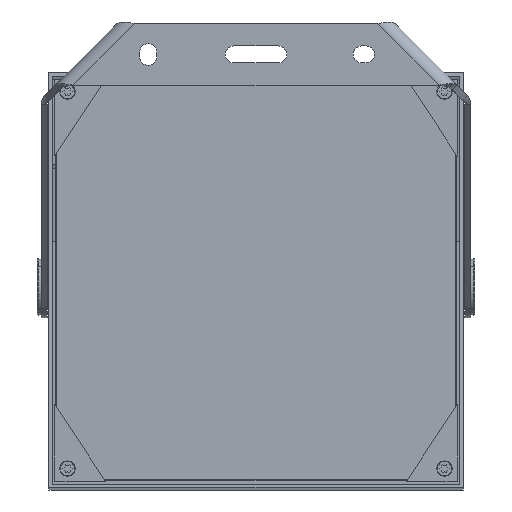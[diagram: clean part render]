
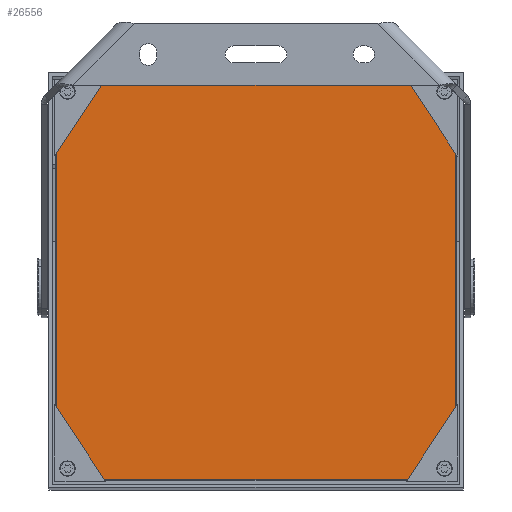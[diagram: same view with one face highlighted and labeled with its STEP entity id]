
A CAD part, front view. The second image highlights one B-rep face of the part: STEP entity #26556.
In plain terms, the highlighted planar face has unit normal (0, -1, 0).
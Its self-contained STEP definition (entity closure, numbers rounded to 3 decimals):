
#25973=DIRECTION('',(0.,0.,1.));
#25974=VECTOR('',#25973,205.404);
#25975=CARTESIAN_POINT('',(129.405,2.,-102.702));
#25976=LINE('',#25975,#25974);
#25977=DIRECTION('',(-0.707,0.,-0.707));
#25978=VECTOR('',#25977,37.77);
#25979=CARTESIAN_POINT('',(129.405,2.,-102.702));
#25980=LINE('',#25979,#25978);
#25981=DIRECTION('',(1.,0.,0.));
#25982=VECTOR('',#25981,205.397);
#25983=CARTESIAN_POINT('',(-102.698,2.,-129.409));
#25984=LINE('',#25983,#25982);
#25985=DIRECTION('',(-0.707,0.,0.707));
#25986=VECTOR('',#25985,37.77);
#25987=CARTESIAN_POINT('',(-102.698,2.,-129.409));
#25988=LINE('',#25987,#25986);
#25989=DIRECTION('',(0.,0.,-1.));
#25990=VECTOR('',#25989,205.404);
#25991=CARTESIAN_POINT('',(-129.405,2.,102.702));
#25992=LINE('',#25991,#25990);
#25993=DIRECTION('',(0.707,0.,0.707));
#25994=VECTOR('',#25993,37.77);
#25995=CARTESIAN_POINT('',(-129.405,2.,102.702));
#25996=LINE('',#25995,#25994);
#25997=DIRECTION('',(-1.,0.,0.));
#25998=VECTOR('',#25997,205.397);
#25999=CARTESIAN_POINT('',(102.698,2.,129.409));
#26000=LINE('',#25999,#25998);
#26001=DIRECTION('',(0.707,0.,-0.707));
#26002=VECTOR('',#26001,37.77);
#26003=CARTESIAN_POINT('',(102.698,2.,129.409));
#26004=LINE('',#26003,#26002);
#26433=CARTESIAN_POINT('',(129.405,2.,-102.702));
#26434=CARTESIAN_POINT('',(129.405,2.,102.702));
#26435=VERTEX_POINT('',#26433);
#26436=VERTEX_POINT('',#26434);
#26437=CARTESIAN_POINT('',(102.698,2.,-129.409));
#26438=VERTEX_POINT('',#26437);
#26451=CARTESIAN_POINT('',(-102.698,2.,-129.409));
#26452=VERTEX_POINT('',#26451);
#26457=CARTESIAN_POINT('',(-129.405,2.,-102.702));
#26458=VERTEX_POINT('',#26457);
#26467=CARTESIAN_POINT('',(-129.405,2.,102.702));
#26468=VERTEX_POINT('',#26467);
#26479=CARTESIAN_POINT('',(-102.698,2.,129.409));
#26480=VERTEX_POINT('',#26479);
#26499=CARTESIAN_POINT('',(102.698,2.,129.409));
#26500=VERTEX_POINT('',#26499);
#26533=CARTESIAN_POINT('',(0.,2.,0.));
#26534=DIRECTION('',(0.,-1.,0.));
#26535=DIRECTION('',(-1.,0.,0.));
#26536=AXIS2_PLACEMENT_3D('',#26533,#26534,#26535);
#26537=PLANE('',#26536);
#26539=ORIENTED_EDGE('',*,*,#26538,.F.);
#26541=ORIENTED_EDGE('',*,*,#26540,.T.);
#26543=ORIENTED_EDGE('',*,*,#26542,.F.);
#26545=ORIENTED_EDGE('',*,*,#26544,.T.);
#26547=ORIENTED_EDGE('',*,*,#26546,.F.);
#26549=ORIENTED_EDGE('',*,*,#26548,.T.);
#26551=ORIENTED_EDGE('',*,*,#26550,.F.);
#26553=ORIENTED_EDGE('',*,*,#26552,.T.);
#26554=EDGE_LOOP('',(#26539,#26541,#26543,#26545,#26547,#26549,#26551,#26553));
#26555=FACE_OUTER_BOUND('',#26554,.F.);
#26556=ADVANCED_FACE('',(#26555),#26537,.T.);
#26538=EDGE_CURVE('',#26435,#26436,#25976,.T.);
#26540=EDGE_CURVE('',#26435,#26438,#25980,.T.);
#26542=EDGE_CURVE('',#26452,#26438,#25984,.T.);
#26544=EDGE_CURVE('',#26452,#26458,#25988,.T.);
#26546=EDGE_CURVE('',#26468,#26458,#25992,.T.);
#26548=EDGE_CURVE('',#26468,#26480,#25996,.T.);
#26550=EDGE_CURVE('',#26500,#26480,#26000,.T.);
#26552=EDGE_CURVE('',#26500,#26436,#26004,.T.);
